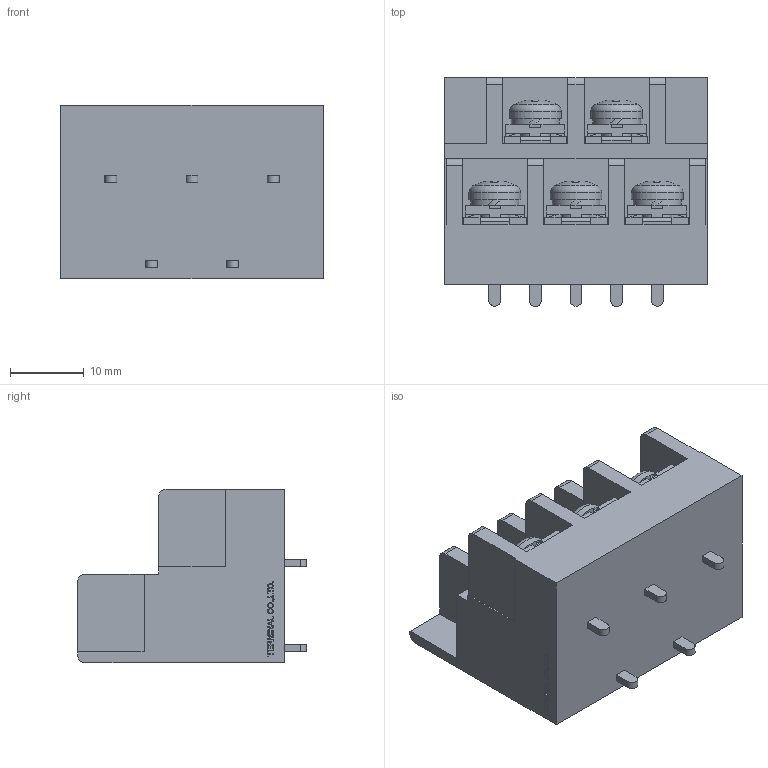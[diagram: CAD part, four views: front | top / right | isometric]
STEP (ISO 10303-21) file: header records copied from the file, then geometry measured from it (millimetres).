
FILE_DESCRIPTION(/* description */ ('Alibre Inc.'),/* implementation_level */ '2;1');
FILE_NAME(/* name */ 'export0',/* time_stamp */ '2016-08-06T13:32:18+09:00',/* author */ (''),/* organization */ (''),/* preprocessor_version */ 'ST-DEVELOPER v14',/* originating_system */ 'Alibre',/* authorisation */ '');
FILE_SCHEMA (('CONFIG_CONTROL_DESIGN'));
Length unit declared in the file: centimetre
Products named in the file (1): ID_1
Bounding box: 35.6 x 31 x 23.5 mm (x, y, z)
Volume: 14869.4 mm3; surface area: 7228.6 mm2
Topology: 1 solids, 49 shells, 1234 faces, 3229 edges, 2131 vertices
Faces by surface type: plane 948, bspline 208, cylinder 43, cone 20, torus 10, sphere 5
Full cylindrical faces by diameter (mm): 4 x5, 7 x5
Entity records: 36214 total; most frequent: CARTESIAN_POINT 8461, ORIENTED_EDGE 6448, DIRECTION 3959, EDGE_CURVE 3204, VECTOR 2445, LINE 2445, VERTEX_POINT 2126, EDGE_LOOP 1336
